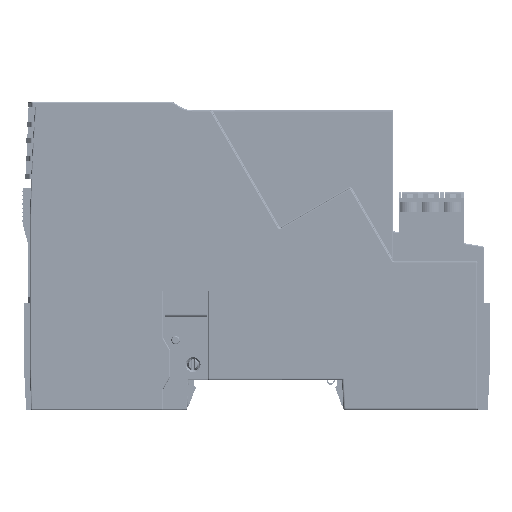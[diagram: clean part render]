
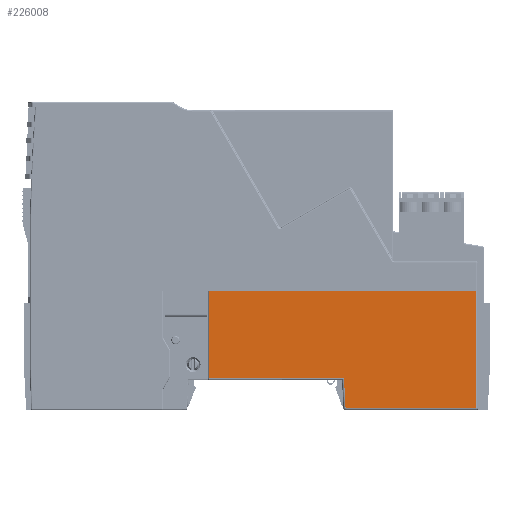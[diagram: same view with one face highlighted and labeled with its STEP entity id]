
A CAD part, left-side view. The second image highlights one B-rep face of the part: STEP entity #226008.
In plain terms, the highlighted planar face has unit normal (-1, 0, 0).
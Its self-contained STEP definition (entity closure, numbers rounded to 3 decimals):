
#8661 = CARTESIAN_POINT ( 'NONE',  ( -28.5, 13.2, -3.5 ) ) ;
#10101 = DIRECTION ( 'NONE',  ( 0., 1., 0. ) ) ;
#20870 = EDGE_CURVE ( 'NONE', #80409, #192479, #149702, .T. ) ;
#21040 = CARTESIAN_POINT ( 'NONE',  ( -28.5, -50., 14. ) ) ;
#24477 = FACE_OUTER_BOUND ( 'NONE', #276997, .T. ) ;
#24541 = CARTESIAN_POINT ( 'NONE',  ( -28.5, -49.5, -13.5 ) ) ;
#26716 = LINE ( 'NONE', #49344, #74021 ) ;
#31919 = DIRECTION ( 'NONE',  ( 0., 0.052, 0.999 ) ) ;
#40016 = ORIENTED_EDGE ( 'NONE', *, *, #187194, .F. ) ;
#48437 = CARTESIAN_POINT ( 'NONE',  ( -28.5, -50., -13.5 ) ) ;
#49344 = CARTESIAN_POINT ( 'NONE',  ( -28.5, -34., -6.5 ) ) ;
#49778 = LINE ( 'NONE', #8661, #110802 ) ;
#54390 = AXIS2_PLACEMENT_3D ( 'NONE', #279150, #257913, #155962 ) ;
#54663 = ORIENTED_EDGE ( 'NONE', *, *, #63700, .F. ) ;
#63700 = EDGE_CURVE ( 'NONE', #162118, #192479, #49778, .T. ) ;
#69909 = VECTOR ( 'NONE', #274336, 1000. ) ;
#74021 = VECTOR ( 'NONE', #113019, 1000. ) ;
#76144 = VERTEX_POINT ( 'NONE', #24541 ) ;
#80409 = VERTEX_POINT ( 'NONE', #193862 ) ;
#87128 = EDGE_CURVE ( 'NONE', #76144, #224286, #182690, .T. ) ;
#93871 = VECTOR ( 'NONE', #140307, 1000. ) ;
#109579 = EDGE_CURVE ( 'NONE', #80409, #76144, #141689, .T. ) ;
#110802 = VECTOR ( 'NONE', #134653, 1000. ) ;
#113019 = DIRECTION ( 'NONE',  ( 0., 1., 0. ) ) ;
#116498 = EDGE_CURVE ( 'NONE', #237511, #162118, #26716, .T. ) ;
#126809 = VECTOR ( 'NONE', #10101, 1000. ) ;
#126954 = CARTESIAN_POINT ( 'NONE',  ( -28.5, -18.474, -6.5 ) ) ;
#133374 = PLANE ( 'NONE',  #54390 ) ;
#134653 = DIRECTION ( 'NONE',  ( 0., 0., 1. ) ) ;
#134786 = CARTESIAN_POINT ( 'NONE',  ( -28.5, 13.2, -6.5 ) ) ;
#140307 = DIRECTION ( 'NONE',  ( 0., 0., -1. ) ) ;
#141689 = LINE ( 'NONE', #271871, #93871 ) ;
#143562 = VECTOR ( 'NONE', #31919, 1000. ) ;
#146542 = ORIENTED_EDGE ( 'NONE', *, *, #109579, .F. ) ;
#149702 = LINE ( 'NONE', #21040, #69909 ) ;
#155962 = DIRECTION ( 'NONE',  ( 0., 0.707, 0.707 ) ) ;
#162118 = VERTEX_POINT ( 'NONE', #134786 ) ;
#176401 = CARTESIAN_POINT ( 'NONE',  ( -28.5, -18.841, -13.5 ) ) ;
#182690 = LINE ( 'NONE', #48437, #126809 ) ;
#187194 = EDGE_CURVE ( 'NONE', #224286, #237511, #248290, .T. ) ;
#192479 = VERTEX_POINT ( 'NONE', #253758 ) ;
#193862 = CARTESIAN_POINT ( 'NONE',  ( -28.5, -49.5, 14. ) ) ;
#195974 = ORIENTED_EDGE ( 'NONE', *, *, #116498, .F. ) ;
#224286 = VERTEX_POINT ( 'NONE', #176401 ) ;
#225648 = CARTESIAN_POINT ( 'NONE',  ( -28.5, -18.544, -7.82 ) ) ;
#226008 = ADVANCED_FACE ( 'NONE', ( #24477 ), #133374, .T. ) ;
#237511 = VERTEX_POINT ( 'NONE', #126954 ) ;
#248290 = LINE ( 'NONE', #225648, #143562 ) ;
#253758 = CARTESIAN_POINT ( 'NONE',  ( -28.5, 13.2, 14. ) ) ;
#257913 = DIRECTION ( 'NONE',  ( -1., 0., 0. ) ) ;
#268066 = ORIENTED_EDGE ( 'NONE', *, *, #87128, .F. ) ;
#271871 = CARTESIAN_POINT ( 'NONE',  ( -28.5, -49.5, 0. ) ) ;
#274336 = DIRECTION ( 'NONE',  ( 0., 1., 0. ) ) ;
#276997 = EDGE_LOOP ( 'NONE', ( #54663, #195974, #40016, #268066, #146542, #279707 ) ) ;
#279150 = CARTESIAN_POINT ( 'NONE',  ( -28.5, -50., 0. ) ) ;
#279707 = ORIENTED_EDGE ( 'NONE', *, *, #20870, .T. ) ;
